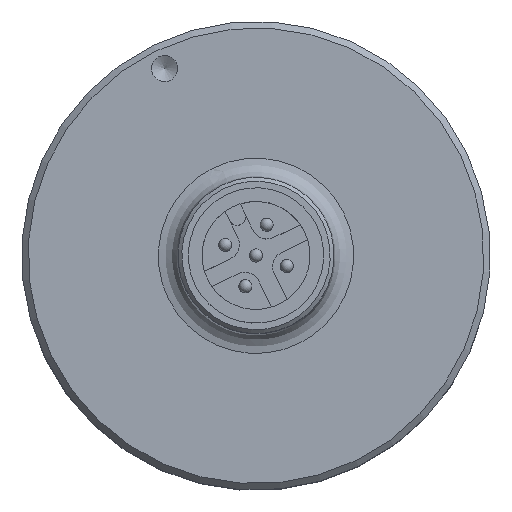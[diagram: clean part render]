
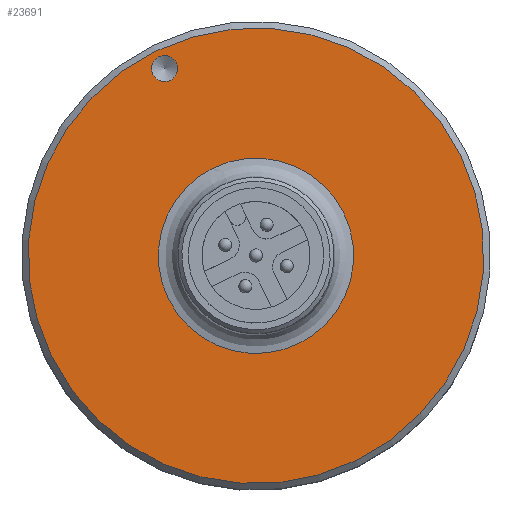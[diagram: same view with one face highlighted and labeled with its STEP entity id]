
A CAD part, top view. The second image highlights one B-rep face of the part: STEP entity #23691.
In plain terms, the highlighted planar face has unit normal (0, 0, 1).
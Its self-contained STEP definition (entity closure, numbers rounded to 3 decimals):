
#23540=CARTESIAN_POINT('',(-9.017,18.158,19.3));
#23541=VERTEX_POINT('',#23540);
#23542=CARTESIAN_POINT('',(-8.579,17.259,19.3));
#23543=DIRECTION('',(0.,0.,-1.));
#23544=DIRECTION('',(-0.439,0.899,0.));
#23545=AXIS2_PLACEMENT_3D('',#23542,#23543,#23544);
#23546=CIRCLE('',#23545,1.0);
#23547=EDGE_CURVE('',#23541,#23541,#23546,.T.);
#23626=CARTESIAN_POINT('',(6.125,-12.842,19.3));
#23627=VERTEX_POINT('',#23626);
#23628=CARTESIAN_POINT('',(-1.556,2.883,19.3));
#23629=DIRECTION('',(0.,0.,-1.0));
#23630=DIRECTION('',(-0.439,0.899,0.));
#23631=AXIS2_PLACEMENT_3D('',#23628,#23629,#23630);
#23632=CIRCLE('',#23631,17.5);
#23633=EDGE_CURVE('',#23627,#23627,#23632,.T.);
#23669=CARTESIAN_POINT('',(-2.376,2.526,19.3));
#23670=DIRECTION('',(0.0,0.0,1.0));
#23671=DIRECTION('',(-0.439,0.899,0.0));
#23672=AXIS2_PLACEMENT_3D('',#23669,#23670,#23671);
#23673=PLANE('',#23672);
#23674=ORIENTED_EDGE('',*,*,#23633,.F.);
#23675=EDGE_LOOP('',(#23674));
#23676=FACE_OUTER_BOUND('',#23675,.T.);
#23677=ORIENTED_EDGE('',*,*,#23547,.T.);
#23678=EDGE_LOOP('',(#23677));
#23679=FACE_BOUND('',#23678,.T.);
#23680=CARTESIAN_POINT('',(-4.848,9.622,19.3));
#23681=VERTEX_POINT('',#23680);
#23682=CARTESIAN_POINT('',(-1.556,2.883,19.3));
#23683=DIRECTION('',(0.,0.,1.0));
#23684=DIRECTION('',(0.439,-0.899,0.));
#23685=AXIS2_PLACEMENT_3D('',#23682,#23683,#23684);
#23686=CIRCLE('',#23685,7.5);
#23687=EDGE_CURVE('',#23681,#23681,#23686,.T.);
#23688=ORIENTED_EDGE('',*,*,#23687,.F.);
#23689=EDGE_LOOP('',(#23688));
#23690=FACE_BOUND('',#23689,.T.);
#23691=ADVANCED_FACE('',(#23676,#23679,#23690),#23673,.T.);
